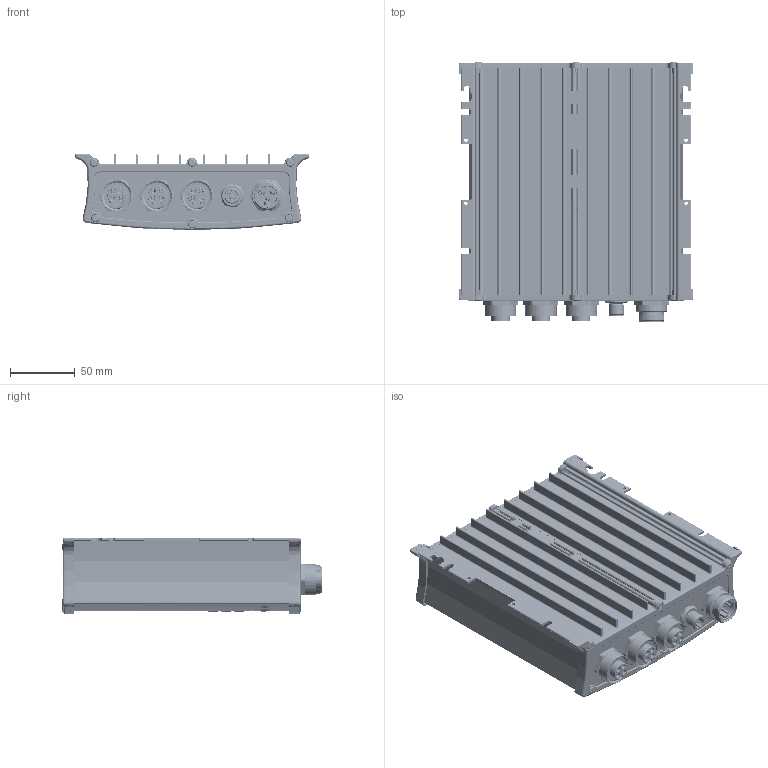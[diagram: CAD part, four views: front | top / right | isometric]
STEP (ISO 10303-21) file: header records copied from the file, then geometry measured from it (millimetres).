
FILE_DESCRIPTION (( 'STEP AP214' ), '1' );
FILE_NAME ('447.40.01.STEP', '2024-07-31T08:56:01', ( '' ), ( '' ), 'SwSTEP 2.0', 'SolidWorks 2024', '' );
FILE_SCHEMA (( 'AUTOMOTIVE_DESIGN' ));
Length unit declared in the file: millimetre
Products named in the file (1): 447.40.01
Bounding box: 180.63 x 199.55 x 58.73 mm (x, y, z)
Volume: 282660.6 mm3; surface area: 359531.1 mm2
Topology: 49 solids, 52 shells, 3197 faces, 8894 edges, 6176 vertices
Faces by surface type: plane 1155, cylinder 1028, torus 491, cone 283, bspline 238, sphere 2
Full cylindrical faces by diameter (mm): 0.56 x6, 1 x5, 1.3 x15, 1.6 x15, 2 x18, 2.05 x12, 2.2 x15, 2.4 x15, 2.6 x15, 2.7 x4, 3 x27, 3.4 x12, 3.6 x12, 5 x2, 6 x24, 8.3 x1, 10.5 x1, 10.65 x1, 12 x1, 12.15 x1, 13.4 x1, 13.8 x1, 14.3 x3, 17.8 x4, 18.2 x6, 18.5 x1, 19.06 x4, 22.5 x6, 24 x3
Entity records: 186333 total; most frequent: CARTESIAN_POINT 73853, ORIENTED_EDGE 16322, DIRECTION 14761, EDGE_CURVE 8161, VERTEX_POINT 5940, AXIS2_PLACEMENT_3D 5832, EDGE_LOOP 4187, FACE_OUTER_BOUND 3606
